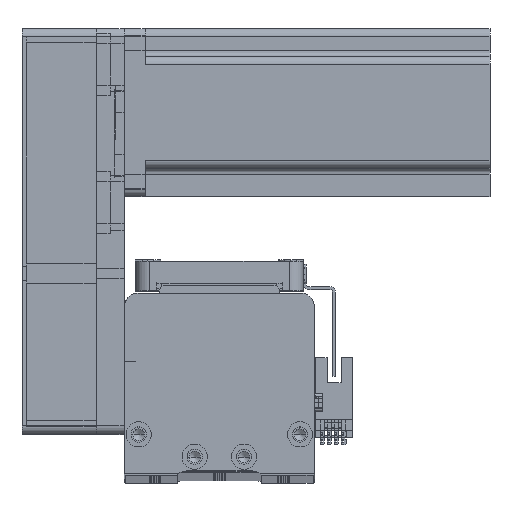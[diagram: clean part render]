
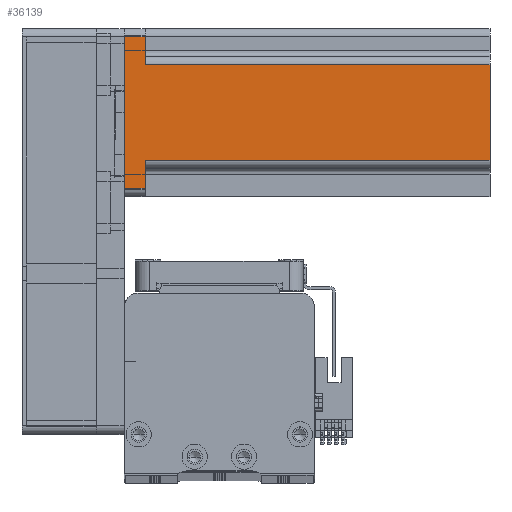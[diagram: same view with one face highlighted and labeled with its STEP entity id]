
A CAD part, top view. The second image highlights one B-rep face of the part: STEP entity #36139.
In plain terms, the highlighted planar face has unit normal (0, 0, 1) as drawn and (0, 1, 0) by its records, which use the part's own axes.
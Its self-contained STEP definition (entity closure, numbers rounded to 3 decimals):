
#670 = PLANE ( 'NONE',  #32186 ) ;
#800 = ORIENTED_EDGE ( 'NONE', *, *, #26829, .F. ) ;
#821 = VECTOR ( 'NONE', #48703, 1000. ) ;
#1035 = DIRECTION ( 'NONE',  ( 0., -1., 0. ) ) ;
#1348 = DIRECTION ( 'NONE',  ( -1., 0., 0. ) ) ;
#3179 = EDGE_LOOP ( 'NONE', ( #14559, #48182, #800, #33499, #13037, #24872, #8850, #47774 ) ) ;
#4262 = CARTESIAN_POINT ( 'NONE',  ( -20., 30., 7.5 ) ) ;
#5350 = VECTOR ( 'NONE', #21364, 1000. ) ;
#6539 = LINE ( 'NONE', #13383, #17719 ) ;
#8850 = ORIENTED_EDGE ( 'NONE', *, *, #22247, .T. ) ;
#11745 = VERTEX_POINT ( 'NONE', #12024 ) ;
#12024 = CARTESIAN_POINT ( 'NONE',  ( -27., 30., 0. ) ) ;
#13037 = ORIENTED_EDGE ( 'NONE', *, *, #21863, .F. ) ;
#13339 = LINE ( 'NONE', #23461, #821 ) ;
#13383 = CARTESIAN_POINT ( 'NONE',  ( -27., 30., 130.7 ) ) ;
#13518 = CARTESIAN_POINT ( 'NONE',  ( 17., 30., 7.5 ) ) ;
#13718 = FACE_OUTER_BOUND ( 'NONE', #3179, .T. ) ;
#14132 = CARTESIAN_POINT ( 'NONE',  ( -17., 30., 130.7 ) ) ;
#14559 = ORIENTED_EDGE ( 'NONE', *, *, #38494, .T. ) ;
#14726 = VERTEX_POINT ( 'NONE', #13518 ) ;
#16525 = LINE ( 'NONE', #42395, #5350 ) ;
#17719 = VECTOR ( 'NONE', #38667, 1000. ) ;
#17836 = VECTOR ( 'NONE', #21186, 1000. ) ;
#17854 = CARTESIAN_POINT ( 'NONE',  ( 17., 30., 130.7 ) ) ;
#21186 = DIRECTION ( 'NONE',  ( 1., 0., 0. ) ) ;
#21364 = DIRECTION ( 'NONE',  ( 0., 0., -1. ) ) ;
#21863 = EDGE_CURVE ( 'NONE', #51829, #14726, #13339, .T. ) ;
#22247 = EDGE_CURVE ( 'NONE', #29469, #11745, #34418, .T. ) ;
#22754 = CARTESIAN_POINT ( 'NONE',  ( 30., 30., 130.7 ) ) ;
#23193 = VECTOR ( 'NONE', #1348, 1000. ) ;
#23410 = LINE ( 'NONE', #22754, #33320 ) ;
#23461 = CARTESIAN_POINT ( 'NONE',  ( 20., 30., 7.5 ) ) ;
#23874 = EDGE_CURVE ( 'NONE', #44858, #14726, #31141, .T. ) ;
#24834 = CARTESIAN_POINT ( 'NONE',  ( 27., 30., 7.5 ) ) ;
#24872 = ORIENTED_EDGE ( 'NONE', *, *, #38522, .T. ) ;
#26293 = CARTESIAN_POINT ( 'NONE',  ( 30., 30., 130.7 ) ) ;
#26829 = EDGE_CURVE ( 'NONE', #44858, #47145, #23410, .T. ) ;
#28825 = CARTESIAN_POINT ( 'NONE',  ( -17., 30., 7.5 ) ) ;
#29469 = VERTEX_POINT ( 'NONE', #50560 ) ;
#30526 = DIRECTION ( 'NONE',  ( 1., 0., 0. ) ) ;
#30828 = EDGE_CURVE ( 'NONE', #34052, #47145, #35236, .T. ) ;
#31141 = LINE ( 'NONE', #17854, #42345 ) ;
#32186 = AXIS2_PLACEMENT_3D ( 'NONE', #26293, #1035, #30526 ) ;
#33320 = VECTOR ( 'NONE', #47981, 1000. ) ;
#33499 = ORIENTED_EDGE ( 'NONE', *, *, #23874, .T. ) ;
#33620 = CARTESIAN_POINT ( 'NONE',  ( 17., 30., 130.7 ) ) ;
#33689 = EDGE_CURVE ( 'NONE', #11745, #36052, #6539, .T. ) ;
#34052 = VERTEX_POINT ( 'NONE', #28825 ) ;
#34418 = LINE ( 'NONE', #51799, #23193 ) ;
#35236 = LINE ( 'NONE', #14132, #46436 ) ;
#36052 = VERTEX_POINT ( 'NONE', #50590 ) ;
#36139 = ADVANCED_FACE ( 'NONE', ( #13718 ), #670, .F. ) ;
#38494 = EDGE_CURVE ( 'NONE', #36052, #34052, #40286, .T. ) ;
#38522 = EDGE_CURVE ( 'NONE', #51829, #29469, #16525, .T. ) ;
#38667 = DIRECTION ( 'NONE',  ( 0., 0., 1. ) ) ;
#39399 = DIRECTION ( 'NONE',  ( 0., 0., 1. ) ) ;
#40286 = LINE ( 'NONE', #4262, #17836 ) ;
#42345 = VECTOR ( 'NONE', #43136, 1000. ) ;
#42395 = CARTESIAN_POINT ( 'NONE',  ( 27., 30., 130.7 ) ) ;
#43136 = DIRECTION ( 'NONE',  ( 0., 0., -1. ) ) ;
#44858 = VERTEX_POINT ( 'NONE', #33620 ) ;
#46436 = VECTOR ( 'NONE', #39399, 1000. ) ;
#47145 = VERTEX_POINT ( 'NONE', #51576 ) ;
#47774 = ORIENTED_EDGE ( 'NONE', *, *, #33689, .T. ) ;
#47981 = DIRECTION ( 'NONE',  ( -1., 0., 0. ) ) ;
#48182 = ORIENTED_EDGE ( 'NONE', *, *, #30828, .T. ) ;
#48703 = DIRECTION ( 'NONE',  ( -1., 0., 0. ) ) ;
#50560 = CARTESIAN_POINT ( 'NONE',  ( 27., 30., 0. ) ) ;
#50590 = CARTESIAN_POINT ( 'NONE',  ( -27., 30., 7.5 ) ) ;
#51576 = CARTESIAN_POINT ( 'NONE',  ( -17., 30., 130.7 ) ) ;
#51799 = CARTESIAN_POINT ( 'NONE',  ( 30., 30., 0. ) ) ;
#51829 = VERTEX_POINT ( 'NONE', #24834 ) ;
